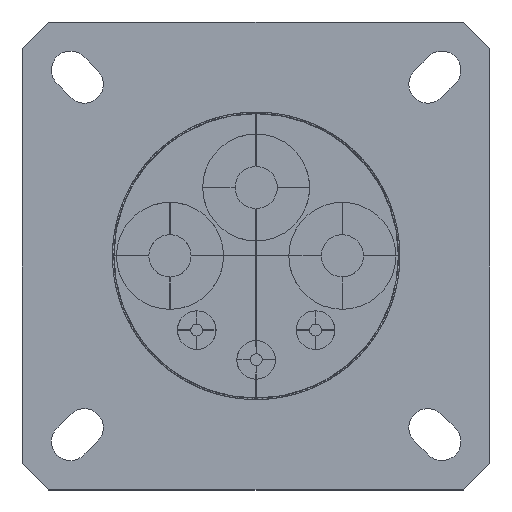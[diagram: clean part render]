
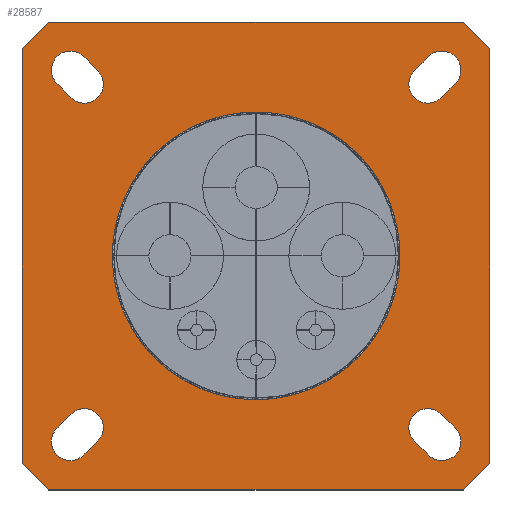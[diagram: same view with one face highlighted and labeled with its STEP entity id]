
A CAD part, top view. The second image highlights one B-rep face of the part: STEP entity #28587.
In plain terms, the highlighted planar face has unit normal (0, 0, 1).
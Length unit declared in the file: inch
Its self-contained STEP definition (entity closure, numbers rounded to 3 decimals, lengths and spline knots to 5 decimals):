
#9533=CARTESIAN_POINT('',(0.,0.,0.));
#9534=DIRECTION('',(0.,0.,1.));
#9535=DIRECTION('',(-1.,0.,0.));
#9536=AXIS2_PLACEMENT_3D('',#9533,#9534,#9535);
#12606=DIRECTION('',(0.707,0.707,0.));
#12607=VECTOR('',#12606,0.128);
#12608=CARTESIAN_POINT('',(-0.788,0.69649,0.));
#12609=LINE('',#12608,#12607);
#12610=DIRECTION('',(1.,0.,0.));
#12611=VECTOR('',#12610,1.39398);
#12612=CARTESIAN_POINT('',(-0.69749,0.787,0.));
#12613=LINE('',#12612,#12611);
#12614=DIRECTION('',(0.707,-0.707,0.));
#12615=VECTOR('',#12614,0.128);
#12616=CARTESIAN_POINT('',(0.69649,0.787,0.));
#12617=LINE('',#12616,#12615);
#12618=DIRECTION('',(0.,-1.,0.));
#12619=VECTOR('',#12618,1.39398);
#12620=CARTESIAN_POINT('',(0.787,0.69649,0.));
#12621=LINE('',#12620,#12619);
#12622=DIRECTION('',(-0.707,-0.707,0.));
#12623=VECTOR('',#12622,0.128);
#12624=CARTESIAN_POINT('',(0.787,-0.69749,0.));
#12625=LINE('',#12624,#12623);
#12626=DIRECTION('',(-1.,0.,0.));
#12627=VECTOR('',#12626,1.39398);
#12628=CARTESIAN_POINT('',(0.69649,-0.788,0.));
#12629=LINE('',#12628,#12627);
#12630=DIRECTION('',(-0.707,0.707,0.));
#12631=VECTOR('',#12630,0.128);
#12632=CARTESIAN_POINT('',(-0.69749,-0.788,0.));
#12633=LINE('',#12632,#12631);
#12634=DIRECTION('',(0.,1.,0.));
#12635=VECTOR('',#12634,1.39398);
#12636=CARTESIAN_POINT('',(-0.788,-0.69749,0.));
#12637=LINE('',#12636,#12635);
#12638=DIRECTION('',(-0.707,-0.707,0.));
#12639=VECTOR('',#12638,0.06647);
#12640=CARTESIAN_POINT('',(-0.62325,-0.53275,0.));
#12641=LINE('',#12640,#12639);
#12642=CARTESIAN_POINT('',(-0.625,-0.625,0.));
#12643=DIRECTION('',(0.,0.,1.));
#12644=DIRECTION('',(-0.707,0.707,0.));
#12645=AXIS2_PLACEMENT_3D('',#12642,#12643,#12644);
#12647=DIRECTION('',(0.707,0.707,0.));
#12648=VECTOR('',#12647,0.06647);
#12649=CARTESIAN_POINT('',(-0.57975,-0.67025,0.));
#12650=LINE('',#12649,#12648);
#12651=CARTESIAN_POINT('',(-0.578,-0.578,0.));
#12652=DIRECTION('',(0.,0.,1.));
#12653=DIRECTION('',(0.707,-0.707,0.));
#12654=AXIS2_PLACEMENT_3D('',#12651,#12652,#12653);
#12656=DIRECTION('',(0.707,-0.707,0.));
#12657=VECTOR('',#12656,0.06647);
#12658=CARTESIAN_POINT('',(-0.67025,0.57975,0.));
#12659=LINE('',#12658,#12657);
#12660=CARTESIAN_POINT('',(-0.578,0.578,0.));
#12661=DIRECTION('',(0.,0.,1.));
#12662=DIRECTION('',(-0.707,-0.707,0.));
#12663=AXIS2_PLACEMENT_3D('',#12660,#12661,#12662);
#12665=DIRECTION('',(-0.707,0.707,0.));
#12666=VECTOR('',#12665,0.06647);
#12667=CARTESIAN_POINT('',(-0.53275,0.62325,0.));
#12668=LINE('',#12667,#12666);
#12669=CARTESIAN_POINT('',(-0.625,0.625,0.));
#12670=DIRECTION('',(0.,0.,1.));
#12671=DIRECTION('',(0.707,0.707,0.));
#12672=AXIS2_PLACEMENT_3D('',#12669,#12670,#12671);
#12674=DIRECTION('',(-0.707,-0.707,0.));
#12675=VECTOR('',#12674,0.06647);
#12676=CARTESIAN_POINT('',(0.57975,0.67025,0.));
#12677=LINE('',#12676,#12675);
#12678=CARTESIAN_POINT('',(0.578,0.578,0.));
#12679=DIRECTION('',(0.,0.,1.));
#12680=DIRECTION('',(-0.707,0.707,0.));
#12681=AXIS2_PLACEMENT_3D('',#12678,#12679,#12680);
#12683=DIRECTION('',(0.707,0.707,0.));
#12684=VECTOR('',#12683,0.06647);
#12685=CARTESIAN_POINT('',(0.62325,0.53275,0.));
#12686=LINE('',#12685,#12684);
#12687=CARTESIAN_POINT('',(0.625,0.625,0.));
#12688=DIRECTION('',(0.,0.,1.));
#12689=DIRECTION('',(0.707,-0.707,0.));
#12690=AXIS2_PLACEMENT_3D('',#12687,#12688,#12689);
#12692=CARTESIAN_POINT('',(0.578,-0.578,0.));
#12693=DIRECTION('',(0.,0.,1.));
#12694=DIRECTION('',(0.707,0.707,0.));
#12695=AXIS2_PLACEMENT_3D('',#12692,#12693,#12694);
#12697=DIRECTION('',(0.707,-0.707,0.));
#12698=VECTOR('',#12697,0.06647);
#12699=CARTESIAN_POINT('',(0.53275,-0.62325,0.));
#12700=LINE('',#12699,#12698);
#12701=CARTESIAN_POINT('',(0.625,-0.625,0.));
#12702=DIRECTION('',(0.,0.,1.));
#12703=DIRECTION('',(-0.707,-0.707,0.));
#12704=AXIS2_PLACEMENT_3D('',#12701,#12702,#12703);
#12706=DIRECTION('',(-0.707,0.707,0.));
#12707=VECTOR('',#12706,0.06647);
#12708=CARTESIAN_POINT('',(0.67025,-0.57975,0.));
#12709=LINE('',#12708,#12707);
#12910=CARTESIAN_POINT('',(0.,0.,0.));
#12911=DIRECTION('',(0.,0.,1.));
#12912=DIRECTION('',(1.,0.,0.));
#12913=AXIS2_PLACEMENT_3D('',#12910,#12911,#12912);
#22300=CARTESIAN_POINT('',(-0.788,0.69649,0.));
#22301=CARTESIAN_POINT('',(-0.69749,0.787,0.));
#22302=VERTEX_POINT('',#22300);
#22303=VERTEX_POINT('',#22301);
#22304=CARTESIAN_POINT('',(0.69649,0.787,0.));
#22305=VERTEX_POINT('',#22304);
#22306=CARTESIAN_POINT('',(0.787,0.69649,0.));
#22307=VERTEX_POINT('',#22306);
#22308=CARTESIAN_POINT('',(0.787,-0.69749,0.));
#22309=VERTEX_POINT('',#22308);
#22310=CARTESIAN_POINT('',(0.69649,-0.788,0.));
#22311=VERTEX_POINT('',#22310);
#22312=CARTESIAN_POINT('',(-0.69749,-0.788,0.));
#22313=VERTEX_POINT('',#22312);
#22314=CARTESIAN_POINT('',(-0.788,-0.69749,0.));
#22315=VERTEX_POINT('',#22314);
#22316=CARTESIAN_POINT('',(-0.62325,-0.53275,0.));
#22317=CARTESIAN_POINT('',(-0.67025,-0.57975,0.));
#22318=VERTEX_POINT('',#22316);
#22319=VERTEX_POINT('',#22317);
#22320=CARTESIAN_POINT('',(-0.57975,-0.67025,0.));
#22321=VERTEX_POINT('',#22320);
#22322=CARTESIAN_POINT('',(-0.53275,-0.62325,0.));
#22323=VERTEX_POINT('',#22322);
#22324=CARTESIAN_POINT('',(-0.67025,0.57975,0.));
#22325=CARTESIAN_POINT('',(-0.62325,0.53275,0.));
#22326=VERTEX_POINT('',#22324);
#22327=VERTEX_POINT('',#22325);
#22328=CARTESIAN_POINT('',(-0.53275,0.62325,0.));
#22329=VERTEX_POINT('',#22328);
#22330=CARTESIAN_POINT('',(-0.57975,0.67025,0.));
#22331=VERTEX_POINT('',#22330);
#22332=CARTESIAN_POINT('',(0.57975,0.67025,0.));
#22333=CARTESIAN_POINT('',(0.53275,0.62325,0.));
#22334=VERTEX_POINT('',#22332);
#22335=VERTEX_POINT('',#22333);
#22336=CARTESIAN_POINT('',(0.62325,0.53275,0.));
#22337=VERTEX_POINT('',#22336);
#22338=CARTESIAN_POINT('',(0.67025,0.57975,0.));
#22339=VERTEX_POINT('',#22338);
#22340=CARTESIAN_POINT('',(0.62325,-0.53275,0.));
#22341=CARTESIAN_POINT('',(0.53275,-0.62325,0.));
#22342=VERTEX_POINT('',#22340);
#22343=VERTEX_POINT('',#22341);
#22344=CARTESIAN_POINT('',(0.57975,-0.67025,0.));
#22345=VERTEX_POINT('',#22344);
#22346=CARTESIAN_POINT('',(0.67025,-0.57975,0.));
#22347=VERTEX_POINT('',#22346);
#22396=CARTESIAN_POINT('',(0.4835,0.,0.));
#22397=CARTESIAN_POINT('',(-0.4835,0.,0.));
#22398=VERTEX_POINT('',#22396);
#22399=VERTEX_POINT('',#22397);
#28519=CARTESIAN_POINT('',(0.,0.,0.));
#28520=DIRECTION('',(0.,0.,-1.));
#28521=DIRECTION('',(0.,-1.,0.));
#28522=AXIS2_PLACEMENT_3D('',#28519,#28520,#28521);
#28523=PLANE('',#28522);
#28525=ORIENTED_EDGE('',*,*,#28524,.T.);
#28527=ORIENTED_EDGE('',*,*,#28526,.T.);
#28529=ORIENTED_EDGE('',*,*,#28528,.T.);
#28531=ORIENTED_EDGE('',*,*,#28530,.T.);
#28533=ORIENTED_EDGE('',*,*,#28532,.T.);
#28535=ORIENTED_EDGE('',*,*,#28534,.T.);
#28537=ORIENTED_EDGE('',*,*,#28536,.T.);
#28539=ORIENTED_EDGE('',*,*,#28538,.T.);
#28540=EDGE_LOOP('',(#28525,#28527,#28529,#28531,#28533,#28535,#28537,#28539));
#28541=FACE_OUTER_BOUND('',#28540,.F.);
#28543=ORIENTED_EDGE('',*,*,#28542,.T.);
#28545=ORIENTED_EDGE('',*,*,#28544,.T.);
#28547=ORIENTED_EDGE('',*,*,#28546,.T.);
#28549=ORIENTED_EDGE('',*,*,#28548,.T.);
#28550=EDGE_LOOP('',(#28543,#28545,#28547,#28549));
#28551=FACE_BOUND('',#28550,.F.);
#28553=ORIENTED_EDGE('',*,*,#28552,.T.);
#28555=ORIENTED_EDGE('',*,*,#28554,.T.);
#28557=ORIENTED_EDGE('',*,*,#28556,.T.);
#28559=ORIENTED_EDGE('',*,*,#28558,.T.);
#28560=EDGE_LOOP('',(#28553,#28555,#28557,#28559));
#28561=FACE_BOUND('',#28560,.F.);
#28563=ORIENTED_EDGE('',*,*,#28562,.T.);
#28565=ORIENTED_EDGE('',*,*,#28564,.T.);
#28567=ORIENTED_EDGE('',*,*,#28566,.T.);
#28569=ORIENTED_EDGE('',*,*,#28568,.T.);
#28570=EDGE_LOOP('',(#28563,#28565,#28567,#28569));
#28571=FACE_BOUND('',#28570,.F.);
#28573=ORIENTED_EDGE('',*,*,#28572,.T.);
#28575=ORIENTED_EDGE('',*,*,#28574,.T.);
#28577=ORIENTED_EDGE('',*,*,#28576,.T.);
#28579=ORIENTED_EDGE('',*,*,#28578,.T.);
#28580=EDGE_LOOP('',(#28573,#28575,#28577,#28579));
#28581=FACE_BOUND('',#28580,.F.);
#28583=ORIENTED_EDGE('',*,*,#28582,.T.);
#28584=ORIENTED_EDGE('',*,*,#27521,.T.);
#28585=EDGE_LOOP('',(#28583,#28584));
#28586=FACE_BOUND('',#28585,.F.);
#28587=ADVANCED_FACE('',(#28541,#28551,#28561,#28571,#28581,#28586),#28523,.F.);
#9537=CIRCLE('',#9536,0.4835);
#12646=CIRCLE('',#12645,0.064);
#12655=CIRCLE('',#12654,0.064);
#12664=CIRCLE('',#12663,0.064);
#12673=CIRCLE('',#12672,0.064);
#12682=CIRCLE('',#12681,0.064);
#12691=CIRCLE('',#12690,0.064);
#12696=CIRCLE('',#12695,0.064);
#12705=CIRCLE('',#12704,0.064);
#12914=CIRCLE('',#12913,0.4835);
#27521=EDGE_CURVE('',#22399,#22398,#9537,.T.);
#28524=EDGE_CURVE('',#22302,#22303,#12609,.T.);
#28526=EDGE_CURVE('',#22303,#22305,#12613,.T.);
#28528=EDGE_CURVE('',#22305,#22307,#12617,.T.);
#28530=EDGE_CURVE('',#22307,#22309,#12621,.T.);
#28532=EDGE_CURVE('',#22309,#22311,#12625,.T.);
#28534=EDGE_CURVE('',#22311,#22313,#12629,.T.);
#28536=EDGE_CURVE('',#22313,#22315,#12633,.T.);
#28538=EDGE_CURVE('',#22315,#22302,#12637,.T.);
#28542=EDGE_CURVE('',#22318,#22319,#12641,.T.);
#28544=EDGE_CURVE('',#22319,#22321,#12646,.T.);
#28546=EDGE_CURVE('',#22321,#22323,#12650,.T.);
#28548=EDGE_CURVE('',#22323,#22318,#12655,.T.);
#28552=EDGE_CURVE('',#22326,#22327,#12659,.T.);
#28554=EDGE_CURVE('',#22327,#22329,#12664,.T.);
#28556=EDGE_CURVE('',#22329,#22331,#12668,.T.);
#28558=EDGE_CURVE('',#22331,#22326,#12673,.T.);
#28562=EDGE_CURVE('',#22334,#22335,#12677,.T.);
#28564=EDGE_CURVE('',#22335,#22337,#12682,.T.);
#28566=EDGE_CURVE('',#22337,#22339,#12686,.T.);
#28568=EDGE_CURVE('',#22339,#22334,#12691,.T.);
#28572=EDGE_CURVE('',#22342,#22343,#12696,.T.);
#28574=EDGE_CURVE('',#22343,#22345,#12700,.T.);
#28576=EDGE_CURVE('',#22345,#22347,#12705,.T.);
#28578=EDGE_CURVE('',#22347,#22342,#12709,.T.);
#28582=EDGE_CURVE('',#22398,#22399,#12914,.T.);
